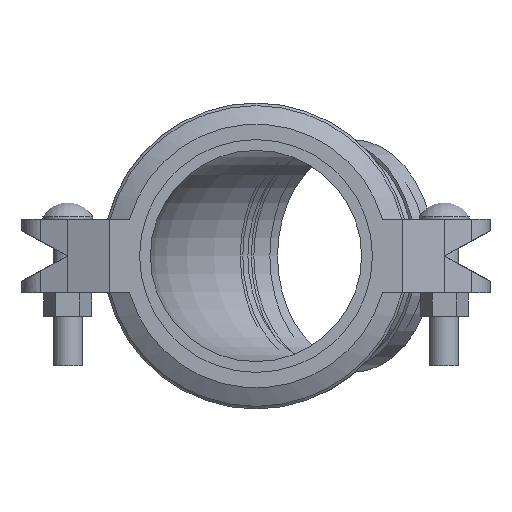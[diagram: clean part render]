
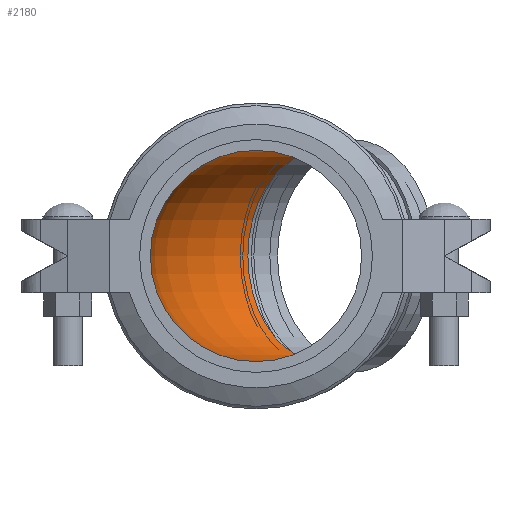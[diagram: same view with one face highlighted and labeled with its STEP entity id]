
A CAD part, left-side view. The second image highlights one B-rep face of the part: STEP entity #2180.
In plain terms, the highlighted toroidal (fillet/blend) face has major radius 137.972 mm and minor radius 64.097 mm.
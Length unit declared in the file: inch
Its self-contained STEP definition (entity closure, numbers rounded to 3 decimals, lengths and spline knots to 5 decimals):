
#70=TOROIDAL_SURFACE('',#2410,5.43198,2.5235);
#471=FACE_OUTER_BOUND('',#592,.T.);
#592=EDGE_LOOP('',(#1386,#1387,#1388,#1389,#1390,#1391));
#735=CIRCLE('',#2411,2.5235);
#736=CIRCLE('',#2412,2.5235);
#737=CIRCLE('',#2413,2.90848);
#738=CIRCLE('',#2414,2.5235);
#739=CIRCLE('',#2415,2.5235);
#851=VERTEX_POINT('',#3360);
#852=VERTEX_POINT('',#3361);
#853=VERTEX_POINT('',#3364);
#854=VERTEX_POINT('',#3366);
#1063=EDGE_CURVE('',#851,#852,#735,.T.);
#1064=EDGE_CURVE('',#852,#851,#736,.T.);
#1065=EDGE_CURVE('',#851,#853,#737,.T.);
#1066=EDGE_CURVE('',#853,#854,#738,.T.);
#1067=EDGE_CURVE('',#854,#853,#739,.T.);
#1386=ORIENTED_EDGE('',*,*,#1063,.T.);
#1387=ORIENTED_EDGE('',*,*,#1064,.T.);
#1388=ORIENTED_EDGE('',*,*,#1065,.T.);
#1389=ORIENTED_EDGE('',*,*,#1066,.T.);
#1390=ORIENTED_EDGE('',*,*,#1067,.T.);
#1391=ORIENTED_EDGE('',*,*,#1065,.F.);
#2180=ADVANCED_FACE('',(#471),#70,.F.);
#2410=AXIS2_PLACEMENT_3D('',#3359,#2690,#2691);
#2411=AXIS2_PLACEMENT_3D('',#3362,#2692,#2693);
#2412=AXIS2_PLACEMENT_3D('',#3363,#2694,#2695);
#2413=AXIS2_PLACEMENT_3D('',#3365,#2696,#2697);
#2414=AXIS2_PLACEMENT_3D('',#3367,#2698,#2699);
#2415=AXIS2_PLACEMENT_3D('',#3368,#2700,#2701);
#2690=DIRECTION('center_axis',(0.,0.,-1.));
#2691=DIRECTION('ref_axis',(-1.,0.,0.));
#2692=DIRECTION('center_axis',(0.,-1.,0.));
#2693=DIRECTION('ref_axis',(1.,0.,0.));
#2694=DIRECTION('center_axis',(0.,-1.,0.));
#2695=DIRECTION('ref_axis',(1.,0.,0.));
#2696=DIRECTION('center_axis',(0.,0.,-1.));
#2697=DIRECTION('ref_axis',(-1.,0.,0.));
#2698=DIRECTION('center_axis',(0.707,0.707,0.));
#2699=DIRECTION('ref_axis',(0.707,-0.707,0.));
#2700=DIRECTION('center_axis',(0.707,0.707,0.));
#2701=DIRECTION('ref_axis',(0.707,-0.707,0.));
#3359=CARTESIAN_POINT('Origin',(5.43198,1.,0.));
#3360=CARTESIAN_POINT('',(2.5235,1.,0.));
#3361=CARTESIAN_POINT('',(-2.5235,1.,0.));
#3362=CARTESIAN_POINT('Origin',(0.,1.,0.));
#3363=CARTESIAN_POINT('Origin',(0.,1.,0.));
#3364=CARTESIAN_POINT('',(3.37537,3.05661,0.));
#3365=CARTESIAN_POINT('Origin',(5.43198,1.,0.));
#3366=CARTESIAN_POINT('',(-0.19339,6.62537,0.));
#3367=CARTESIAN_POINT('Origin',(1.59099,4.84099,0.));
#3368=CARTESIAN_POINT('Origin',(1.59099,4.84099,0.));
